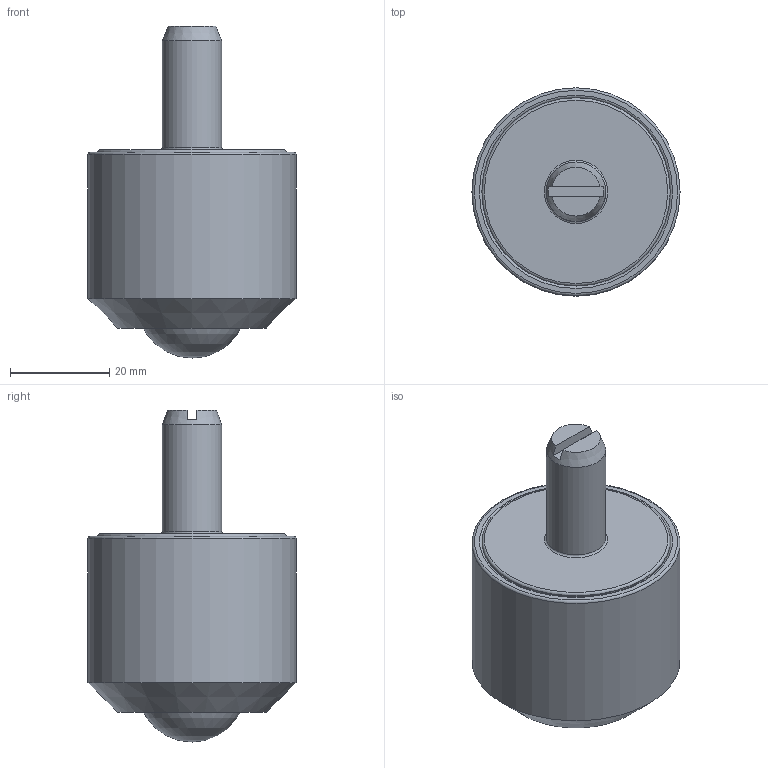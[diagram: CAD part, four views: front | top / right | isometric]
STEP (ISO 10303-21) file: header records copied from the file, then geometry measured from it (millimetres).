
FILE_DESCRIPTION(/* description */ (''),/* implementation_level */ '2;1');
FILE_NAME(/* name */ 'Z:\80-CAD共有ファイル\製品3D\X2\30C730FC30BF\X0\\13-IK-NM\IK-22NM.stp',/* time_stamp */ '2015-01-07T09:41:57+09:00',/* author */ ('yamaki'),/* organization */ (''),/* preprocessor_version */ 'ST-DEVELOPER v15.6',/* originating_system */ 'Autodesk Inventor 2015',/* authorisation */ '');
FILE_SCHEMA (('AUTOMOTIVE_DESIGN { 1 0 10303 214 3 1 1 }'));
Length unit declared in the file: millimetre
Products named in the file (1): 1322AA
Bounding box: 42 x 42 x 67 mm (x, y, z)
Volume: 51063 mm3; surface area: 9394 mm2
Topology: 1 solids, 1 shells, 23 faces, 46 edges, 28 vertices
Faces by surface type: plane 9, cylinder 5, torus 5, cone 3, sphere 1
Full cylindrical faces by diameter (mm): 12 x1, 20.8 x1, 22.8 x1, 38 x1, 42 x1
Entity records: 550 total; most frequent: DIRECTION 94, CARTESIAN_POINT 86, ORIENTED_EDGE 58, AXIS2_PLACEMENT_3D 45, EDGE_LOOP 40, EDGE_CURVE 29, VERTEX_POINT 25, STYLED_ITEM 24
